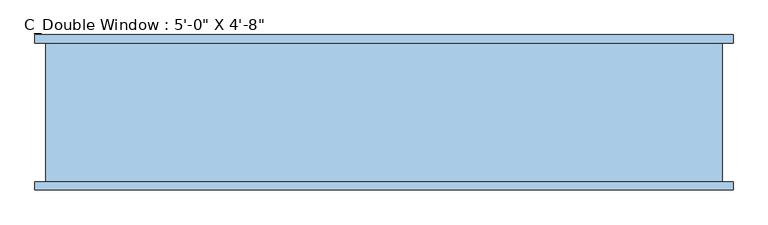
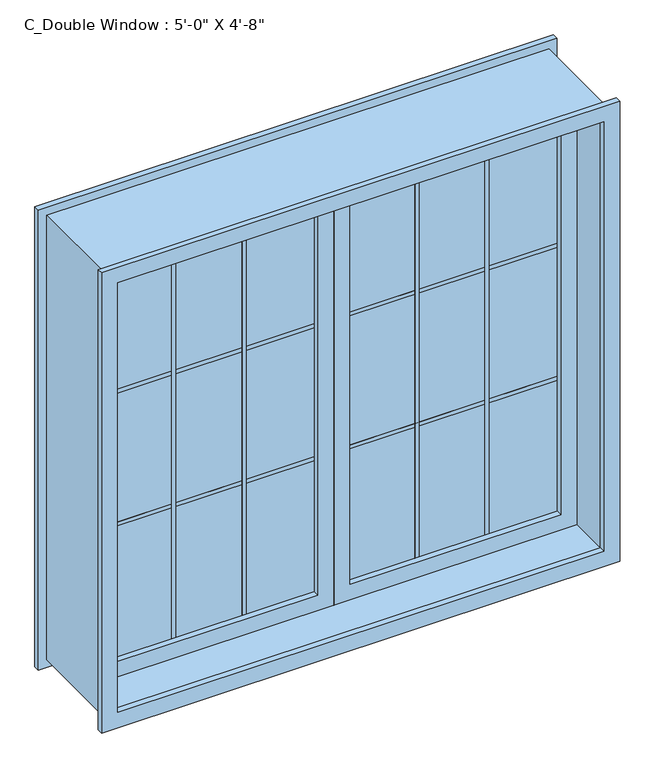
"""IFC4 building model written with IfcOpenShell, lengths in millimetres: window geometry."""

from ifc_helpers import new_model, si_unit, frame, origin, place, context, project, spatial, polyline, outline, extrude, source, transform, mapped, element, save


def window_f9b8632c(model_context):
    return source(origin(), model_context, "Body", "SweptSolid", [
        extrude(outline(polyline([(2336.8, -762.0), (914.4, -762.0), (914.4, 0.0), (2336.8, 0.0), (2336.8, -762.0)]), holes=[polyline([(2286.0, -50.8), (965.2, -50.8), (965.2, -711.2), (2286.0, -711.2), (2286.0, -50.8)])]), frame((0.0, -34.925, 0.0), z_axis=(0.0, 1.0, 0.0), x_axis=(0.0, 0.0, 1.0)), (0.0, 0.0, 1.0), 50.8),
        extrude(outline(polyline([(-484.7166667, -3.175), (-484.7166667, -15.875), (-497.4166667, -15.875), (-497.4166667, -3.175), (-484.7166667, -3.175)])), frame((0.0, 0.0, 965.2), z_axis=(0.0, 0.0, 1.0), x_axis=(1.0, 0.0, 0.0)), (0.0, 0.0, 1.0), 1320.8),
        extrude(outline(polyline([(-264.5833333, -3.175), (-264.5833333, -15.875), (-277.2833333, -15.875), (-277.2833333, -3.175), (-264.5833333, -3.175)])), frame((0.0, 0.0, 965.2), z_axis=(0.0, 0.0, 1.0), x_axis=(1.0, 0.0, 0.0)), (0.0, 0.0, 1.0), 1320.8),
        extrude(outline(polyline([(-711.2, -15.875), (-711.2, -3.175), (-50.8, -3.175), (-50.8, -15.875), (-711.2, -15.875)])), frame((0.0, 0.0, 1839.3833333), z_axis=(0.0, 0.0, 1.0), x_axis=(1.0, 0.0, 0.0)), (0.0, 0.0, 1.0), 12.7),
        extrude(outline(polyline([(-711.2, -15.875), (-711.2, -3.175), (-50.8, -3.175), (-50.8, -15.875), (-711.2, -15.875)])), frame((0.0, 0.0, 1399.1166667), z_axis=(0.0, 0.0, 1.0), x_axis=(1.0, 0.0, 0.0)), (0.0, 0.0, 1.0), 12.7),
        extrude(outline(polyline([(-711.2, -15.875), (-711.2, -3.175), (-50.8, -3.175), (-50.8, -15.875), (-711.2, -15.875)])), frame((0.0, 0.0, 965.2), z_axis=(0.0, 0.0, 1.0), x_axis=(1.0, 0.0, 0.0)), (0.0, 0.0, 1.0), 1320.8),
        extrude(outline(polyline([(2336.8, 0.0), (914.4, 0.0), (914.4, 762.0), (2336.8, 762.0), (2336.8, 0.0)]), holes=[polyline([(2286.0, 711.2), (965.2, 711.2), (965.2, 50.8), (2286.0, 50.8), (2286.0, 711.2)])]), frame((0.0, -34.925, 0.0), z_axis=(0.0, 1.0, 0.0), x_axis=(0.0, 0.0, 1.0)), (0.0, 0.0, 1.0), 50.8),
        extrude(outline(polyline([(277.2833333, -3.175), (277.2833333, -15.875), (264.5833333, -15.875), (264.5833333, -3.175), (277.2833333, -3.175)])), frame((0.0, 0.0, 965.2), z_axis=(0.0, 0.0, 1.0), x_axis=(1.0, 0.0, 0.0)), (0.0, 0.0, 1.0), 1320.8),
        extrude(outline(polyline([(497.4166667, -3.175), (497.4166667, -15.875), (484.7166667, -15.875), (484.7166667, -3.175), (497.4166667, -3.175)])), frame((0.0, 0.0, 965.2), z_axis=(0.0, 0.0, 1.0), x_axis=(1.0, 0.0, 0.0)), (0.0, 0.0, 1.0), 1320.8),
        extrude(outline(polyline([(50.8, -15.875), (50.8, -3.175), (711.2, -3.175), (711.2, -15.875), (50.8, -15.875)])), frame((0.0, 0.0, 1839.3833333), z_axis=(0.0, 0.0, 1.0), x_axis=(1.0, 0.0, 0.0)), (0.0, 0.0, 1.0), 12.7),
        extrude(outline(polyline([(50.8, -15.875), (50.8, -3.175), (711.2, -3.175), (711.2, -15.875), (50.8, -15.875)])), frame((0.0, 0.0, 1399.1166667), z_axis=(0.0, 0.0, 1.0), x_axis=(1.0, 0.0, 0.0)), (0.0, 0.0, 1.0), 12.7),
        extrude(outline(polyline([(50.8, -15.875), (50.8, -3.175), (711.2, -3.175), (711.2, -15.875), (50.8, -15.875)])), frame((0.0, 0.0, 965.2), z_axis=(0.0, 0.0, 1.0), x_axis=(1.0, 0.0, 0.0)), (0.0, 0.0, 1.0), 1320.8),
        extrude(outline(polyline([(2387.6, -812.8), (863.6, -812.8), (863.6, 812.8), (2387.6, 812.8), (2387.6, -812.8)]), holes=[polyline([(2336.8, -762.0), (2336.8, 762.0), (914.4, 762.0), (914.4, -762.0), (2336.8, -762.0)])]), frame((0.0, -180.975, 0.0), z_axis=(0.0, 1.0, 0.0), x_axis=(0.0, 0.0, 1.0)), (0.0, 0.0, 1.0), 19.05),
        extrude(outline(polyline([(2387.6, -812.8), (863.6, -812.8), (863.6, 812.8), (2387.6, 812.8), (2387.6, -812.8)]), holes=[polyline([(2336.8, -762.0), (2336.8, 762.0), (914.4, 762.0), (914.4, -762.0), (2336.8, -762.0)])]), frame((0.0, 161.925, 0.0), z_axis=(0.0, 1.0, 0.0), x_axis=(0.0, 0.0, 1.0)), (0.0, 0.0, 1.0), 19.05),
        extrude(outline(polyline([(2362.2, -787.4), (889.0, -787.4), (889.0, 787.4), (2362.2, 787.4), (2362.2, -787.4)]), holes=[polyline([(2336.8, 762.0), (914.4, 762.0), (914.4, -762.0), (2336.8, -762.0), (2336.8, 762.0)])]), frame((0.0, -161.925, 0.0), z_axis=(0.0, 1.0, 0.0), x_axis=(0.0, 0.0, 1.0)), (0.0, 0.0, 1.0), 323.85),
    ])


if __name__ == "__main__":
    model = new_model("IFC4")
    model_context = context("Model", 3, world=origin())
    ifc_project = project(units=[si_unit("LENGTHUNIT", "METRE", prefix="MILLI")], contexts=[model_context])
    site = spatial("IfcSite", under=ifc_project)
    building = spatial("IfcBuilding", under=site)
    placement = place(None, origin())
    window_shape = window_f9b8632c(model_context)
    element("IfcWindow", 1, ObjectType="C_Double Window : 5'-0\" X 4'-8\"", at=placement, inside=building, context=model_context, shape_type="MappedRepresentation", body=[
        mapped(window_shape, transform((0.0, 0.0, 0.0), x_axis=(1.0, 0.0, 0.0), y_axis=(0.0, 1.0, 0.0), z_axis=(0.0, 0.0, 1.0))),
    ])
    save(model, "model.ifc")
